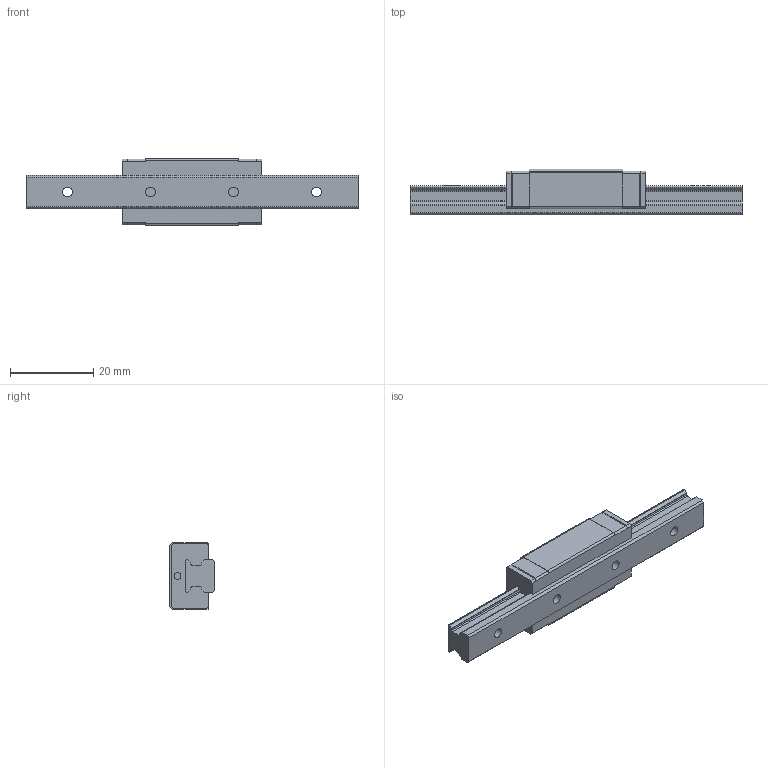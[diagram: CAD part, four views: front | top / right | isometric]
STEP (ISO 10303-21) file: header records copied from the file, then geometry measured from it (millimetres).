
FILE_DESCRIPTION(/* description */ ('STEP AP203'),/* implementation_level */ '2;1');
FILE_NAME(/* name */ 'HRG8LRM1UU-80LHM_G10_0_Without_grease_nipple_23-15_0_0_01',/* time_stamp */ '2024-05-23T11:23:18+02:00',/* author */ ('License CC BY-ND 4.0'),/* organization */ ('CADENAS'),/* preprocessor_version */ 'ST-DEVELOPER v19.3',/* originating_system */ 'PARTsolutions',/* authorisation */ ' ');
FILE_SCHEMA (('CONFIG_CONTROL_DESIGN'));
Length unit declared in the file: millimetre
Products named in the file (4): HRG8LRM1UU-80LHM_G10_0_Without_grease_nipple_23-15_0_0_01; HRG8LRM18010 Rail; HRG8LRMUU 1Slider; HSR-YR-_grease_nipple_joint
Assembly tree (3 placements, depth 2):
  HRG8LRM1UU-80LHM_G10_0_Without_grease_nipple_23-15_0_0_01
    HRG8LRM18010 Rail
    HRG8LRMUU 1Slider
    HSR-YR-_grease_nipple_joint
Bounding box: 80 x 11 x 16 mm (x, y, z)
Volume: 7335.6 mm3; surface area: 5355.7 mm2
Topology: 2 solids, 2 shells, 142 faces, 390 edges, 259 vertices
Faces by surface type: plane 87, cylinder 47, cone 8
Full cylindrical faces by diameter (mm): 1.567 x4, 1.6 x2, 2.4 x4, 4.2 x4
Entity records: 4454 total; most frequent: CARTESIAN_POINT 761, DIRECTION 752, ORIENTED_EDGE 720, EDGE_CURVE 360, LINE 260, VECTOR 260, VERTEX_POINT 254, AXIS2_PLACEMENT_3D 246
